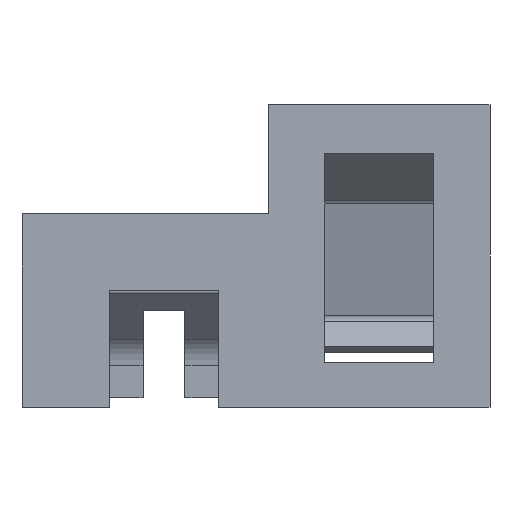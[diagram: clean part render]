
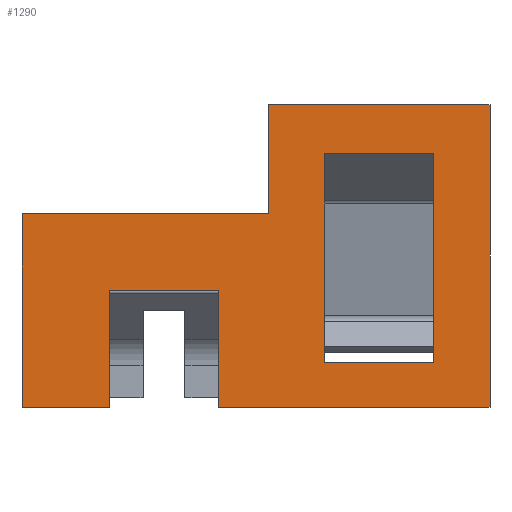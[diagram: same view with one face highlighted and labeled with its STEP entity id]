
A CAD part, front view. The second image highlights one B-rep face of the part: STEP entity #1290.
In plain terms, the highlighted planar face has unit normal (0, -1, 0).
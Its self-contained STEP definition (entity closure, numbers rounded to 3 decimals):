
#29 = DIRECTION ( 'NONE',  ( -1., 0., 0. ) ) ;
#34 = DIRECTION ( 'NONE',  ( -1., 0., 0. ) ) ;
#56 = CARTESIAN_POINT ( 'NONE',  ( -0.4, 0., -2.472 ) ) ;
#72 = DIRECTION ( 'NONE',  ( -1., 0., 0. ) ) ;
#75 = CARTESIAN_POINT ( 'NONE',  ( 9.508, 0., 1.92 ) ) ;
#83 = CARTESIAN_POINT ( 'NONE',  ( -1.108, 0., -4.75 ) ) ;
#88 = DIRECTION ( 'NONE',  ( 1., 0., 0. ) ) ;
#91 = VERTEX_POINT ( 'NONE', #218 ) ;
#94 = CARTESIAN_POINT ( 'NONE',  ( 4.192, 0., 3.5 ) ) ;
#106 = VERTEX_POINT ( 'NONE', #324 ) ;
#133 = CARTESIAN_POINT ( 'NONE',  ( -10.808, 0., -6.2 ) ) ;
#137 = VECTOR ( 'NONE', #29, 1000. ) ;
#138 = LINE ( 'NONE', #83, #137 ) ;
#145 = DIRECTION ( 'NONE',  ( 0., -1., 0. ) ) ;
#147 = ORIENTED_EDGE ( 'NONE', *, *, #286, .F. ) ;
#152 = LINE ( 'NONE', #56, #165 ) ;
#155 = DIRECTION ( 'NONE',  ( 0., 0., -1. ) ) ;
#158 = PLANE ( 'NONE',  #349 ) ;
#161 = LINE ( 'NONE', #94, #668 ) ;
#163 = LINE ( 'NONE', #75, #256 ) ;
#165 = VECTOR ( 'NONE', #34, 1000. ) ;
#171 = ORIENTED_EDGE ( 'NONE', *, *, #1093, .F. ) ;
#173 = CARTESIAN_POINT ( 'NONE',  ( 0., 0., 0. ) ) ;
#177 = FACE_BOUND ( 'NONE', #657, .T. ) ;
#218 = CARTESIAN_POINT ( 'NONE',  ( 4.192, 0., 3.5 ) ) ;
#224 = CARTESIAN_POINT ( 'NONE',  ( -4.508, 0., -2.4 ) ) ;
#243 = DIRECTION ( 'NONE',  ( 0., 0., -1. ) ) ;
#249 = VECTOR ( 'NONE', #243, 1000. ) ;
#256 = VECTOR ( 'NONE', #72, 1000. ) ;
#263 = FACE_OUTER_BOUND ( 'NONE', #722, .T. ) ;
#267 = CARTESIAN_POINT ( 'NONE',  ( -8.008, 0., -6.2 ) ) ;
#286 = EDGE_CURVE ( 'NONE', #313, #1012, #608, .T. ) ;
#300 = LINE ( 'NONE', #224, #759 ) ;
#313 = VERTEX_POINT ( 'NONE', #510 ) ;
#324 = CARTESIAN_POINT ( 'NONE',  ( -2.908, 0., 3.5 ) ) ;
#327 = ORIENTED_EDGE ( 'NONE', *, *, #1261, .F. ) ;
#334 = DIRECTION ( 'NONE',  ( 0., 0., 1. ) ) ;
#340 = CARTESIAN_POINT ( 'NONE',  ( 4.192, 0., -6.2 ) ) ;
#349 = AXIS2_PLACEMENT_3D ( 'NONE', #173, #145, #155 ) ;
#361 = CARTESIAN_POINT ( 'NONE',  ( -8.008, 0., -2.472 ) ) ;
#372 = CARTESIAN_POINT ( 'NONE',  ( -2.908, 0., 3.5 ) ) ;
#381 = VECTOR ( 'NONE', #334, 1000. ) ;
#389 = DIRECTION ( 'NONE',  ( 0., 0., 1. ) ) ;
#414 = LINE ( 'NONE', #372, #381 ) ;
#447 = VERTEX_POINT ( 'NONE', #361 ) ;
#456 = EDGE_CURVE ( 'NONE', #1012, #106, #414, .T. ) ;
#457 = VERTEX_POINT ( 'NONE', #340 ) ;
#510 = CARTESIAN_POINT ( 'NONE',  ( -10.808, 0., 0. ) ) ;
#513 = DIRECTION ( 'NONE',  ( 0., 0., -1. ) ) ;
#538 = ORIENTED_EDGE ( 'NONE', *, *, #1384, .F. ) ;
#569 = EDGE_CURVE ( 'NONE', #840, #786, #163, .T. ) ;
#570 = CARTESIAN_POINT ( 'NONE',  ( 2.392, 0., -4.75 ) ) ;
#573 = VECTOR ( 'NONE', #513, 1000. ) ;
#583 = LINE ( 'NONE', #570, #573 ) ;
#590 = VECTOR ( 'NONE', #613, 1000. ) ;
#608 = LINE ( 'NONE', #629, #590 ) ;
#613 = DIRECTION ( 'NONE',  ( 1., 0., 0. ) ) ;
#626 = EDGE_CURVE ( 'NONE', #1230, #1351, #138, .T. ) ;
#629 = CARTESIAN_POINT ( 'NONE',  ( -2.908, 0., 0. ) ) ;
#635 = EDGE_CURVE ( 'NONE', #1098, #447, #152, .T. ) ;
#638 = ORIENTED_EDGE ( 'NONE', *, *, #1365, .F. ) ;
#657 = EDGE_LOOP ( 'NONE', ( #1007, #800, #1286, #1466 ) ) ;
#658 = CARTESIAN_POINT ( 'NONE',  ( 2.392, 0., -4.75 ) ) ;
#668 = VECTOR ( 'NONE', #88, 1000. ) ;
#690 = ORIENTED_EDGE ( 'NONE', *, *, #1404, .F. ) ;
#722 = EDGE_LOOP ( 'NONE', ( #1425, #1052, #327, #538, #638, #1403, #1409, #147, #171, #690 ) ) ;
#732 = LINE ( 'NONE', #267, #249 ) ;
#759 = VECTOR ( 'NONE', #389, 1000. ) ;
#774 = VERTEX_POINT ( 'NONE', #1412 ) ;
#786 = VERTEX_POINT ( 'NONE', #1363 ) ;
#800 = ORIENTED_EDGE ( 'NONE', *, *, #569, .F. ) ;
#806 = VECTOR ( 'NONE', #826, 1000. ) ;
#826 = DIRECTION ( 'NONE',  ( 0., 0., 1. ) ) ;
#829 = LINE ( 'NONE', #975, #806 ) ;
#840 = VERTEX_POINT ( 'NONE', #1377 ) ;
#907 = CARTESIAN_POINT ( 'NONE',  ( -10.808, 0., -6.2 ) ) ;
#909 = VECTOR ( 'NONE', #946, 1000. ) ;
#912 = VERTEX_POINT ( 'NONE', #1241 ) ;
#920 = DIRECTION ( 'NONE',  ( -1., 0., 0. ) ) ;
#924 = CARTESIAN_POINT ( 'NONE',  ( -4.508, 0., -6.2 ) ) ;
#934 = DIRECTION ( 'NONE',  ( -1., 0., 0. ) ) ;
#936 = CARTESIAN_POINT ( 'NONE',  ( -4.508, 0., -2.472 ) ) ;
#946 = DIRECTION ( 'NONE',  ( 0., 0., 1. ) ) ;
#958 = VECTOR ( 'NONE', #934, 1000. ) ;
#962 = LINE ( 'NONE', #964, #909 ) ;
#964 = CARTESIAN_POINT ( 'NONE',  ( -10.808, 0., 0. ) ) ;
#975 = CARTESIAN_POINT ( 'NONE',  ( -1.108, 0., -4.75 ) ) ;
#993 = DIRECTION ( 'NONE',  ( 0., 0., -1. ) ) ;
#1007 = ORIENTED_EDGE ( 'NONE', *, *, #1102, .T. ) ;
#1012 = VERTEX_POINT ( 'NONE', #1139 ) ;
#1013 = LINE ( 'NONE', #907, #958 ) ;
#1042 = CARTESIAN_POINT ( 'NONE',  ( 4.192, 0., -6.2 ) ) ;
#1052 = ORIENTED_EDGE ( 'NONE', *, *, #635, .F. ) ;
#1079 = CARTESIAN_POINT ( 'NONE',  ( -1.108, 0., -4.75 ) ) ;
#1085 = LINE ( 'NONE', #924, #1142 ) ;
#1093 = EDGE_CURVE ( 'NONE', #1300, #313, #962, .T. ) ;
#1098 = VERTEX_POINT ( 'NONE', #936 ) ;
#1102 = EDGE_CURVE ( 'NONE', #1351, #786, #829, .T. ) ;
#1139 = CARTESIAN_POINT ( 'NONE',  ( -2.908, 0., 0. ) ) ;
#1141 = EDGE_CURVE ( 'NONE', #840, #1230, #583, .T. ) ;
#1142 = VECTOR ( 'NONE', #920, 1000. ) ;
#1221 = VECTOR ( 'NONE', #993, 1000. ) ;
#1230 = VERTEX_POINT ( 'NONE', #658 ) ;
#1240 = LINE ( 'NONE', #1042, #1221 ) ;
#1241 = CARTESIAN_POINT ( 'NONE',  ( -4.508, 0., -6.2 ) ) ;
#1261 = EDGE_CURVE ( 'NONE', #912, #1098, #300, .T. ) ;
#1271 = EDGE_CURVE ( 'NONE', #447, #774, #732, .T. ) ;
#1286 = ORIENTED_EDGE ( 'NONE', *, *, #1141, .T. ) ;
#1290 = ADVANCED_FACE ( 'NONE', ( #177, #263 ), #158, .T. ) ;
#1300 = VERTEX_POINT ( 'NONE', #133 ) ;
#1307 = EDGE_CURVE ( 'NONE', #106, #91, #161, .T. ) ;
#1351 = VERTEX_POINT ( 'NONE', #1079 ) ;
#1363 = CARTESIAN_POINT ( 'NONE',  ( -1.108, 0., 1.92 ) ) ;
#1365 = EDGE_CURVE ( 'NONE', #91, #457, #1240, .T. ) ;
#1377 = CARTESIAN_POINT ( 'NONE',  ( 2.392, 0., 1.92 ) ) ;
#1384 = EDGE_CURVE ( 'NONE', #457, #912, #1085, .T. ) ;
#1403 = ORIENTED_EDGE ( 'NONE', *, *, #1307, .F. ) ;
#1404 = EDGE_CURVE ( 'NONE', #774, #1300, #1013, .T. ) ;
#1409 = ORIENTED_EDGE ( 'NONE', *, *, #456, .F. ) ;
#1412 = CARTESIAN_POINT ( 'NONE',  ( -8.008, 0., -6.2 ) ) ;
#1425 = ORIENTED_EDGE ( 'NONE', *, *, #1271, .F. ) ;
#1466 = ORIENTED_EDGE ( 'NONE', *, *, #626, .T. ) ;
